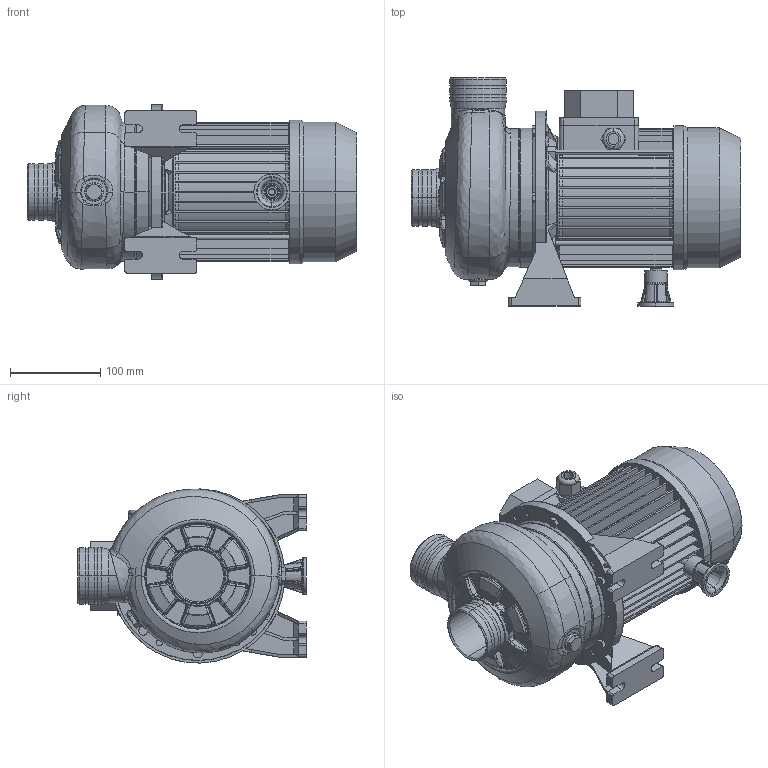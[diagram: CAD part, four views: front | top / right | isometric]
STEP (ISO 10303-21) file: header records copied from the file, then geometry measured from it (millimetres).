
FILE_DESCRIPTION((''),'2;1');
FILE_NAME('DWO_150_IE2_ASM','2011-07-06T',('Utente'),('"Ebara Pumps Europe +39.444.706811"'),'PRO/ENGINEER BY PARAMETRIC TECHNOLOGY CORPORATION, 2009360','PRO/ENGINEER BY PARAMETRIC TECHNOLOGY CORPORATION, 2009360','');
FILE_SCHEMA(('AUTOMOTIVE_DESIGN { 1 0 10303 214 1 1 1 1 }'));
Length unit declared in the file: millimetre
Products named in the file (12): MEC_80X100_IE2; 80596; 251420990; 62036; 62035; 10053; 76006; 40032; 20992_ASM; 72011; 72028; DWO_150_IE2_ASM
Assembly tree (13 placements, depth 3):
  DWO_150_IE2_ASM
    MEC_80X100_IE2
    80596
    20992_ASM
      251420990
      62036
      62035
      10053
      76006  x2
      40032  x2
    72011
    72028
Bounding box: 365 x 253 x 192.9 mm (x, y, z)
Volume: 2749425.5 mm3; surface area: 646161.7 mm2
Topology: 12 solids, 12 shells, 1366 faces, 3279 edges, 1984 vertices
Faces by surface type: plane 477, cylinder 280, bspline 272, torus 168, cone 143, sphere 22, extrusion 4
Entity records: 67989 total; most frequent: CARTESIAN_POINT 25226, ORIENTED_EDGE 6426, DIRECTION 5839, EDGE_CURVE 3213, PRESENTATION_STYLE_ASSIGNMENT 3166, STYLED_ITEM 3166, CURVE_STYLE 3157, AXIS2_PLACEMENT_3D 2346
